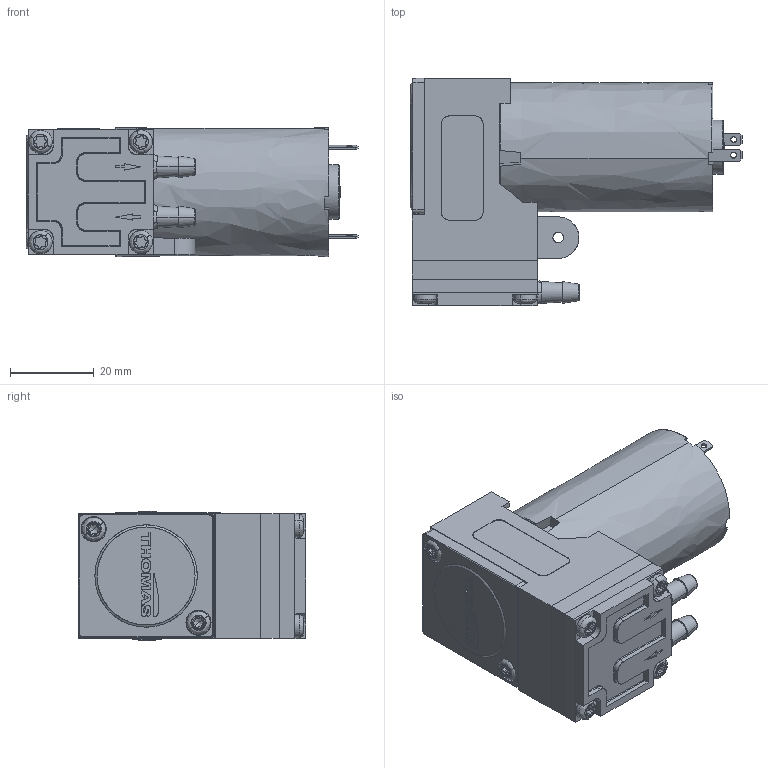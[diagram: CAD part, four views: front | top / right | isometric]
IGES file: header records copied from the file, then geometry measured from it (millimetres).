
Start section: SolidWorks IGES file using analytic representation for surfaces
Global section: file name: C:\Users\KXP2111\Desktop\MF20004-Desktop\Output\05 14100304-18\14100304-18_Kishan.IGS; native system: SolidWorks 2018; preprocessor: SolidWorks 2018; author: KXP2111; date: 190828.155345; units: millimetre
Bounding box: 79.5 x 54.4 x 30.98 mm (x, y, z)
Surface area: 15433.2 mm2 (no closed solid volume)
Topology: 0 solids, 0 shells, 1014 faces, 9052 edges, 9048 vertices
Faces by surface type: bspline 789, revolution 225
